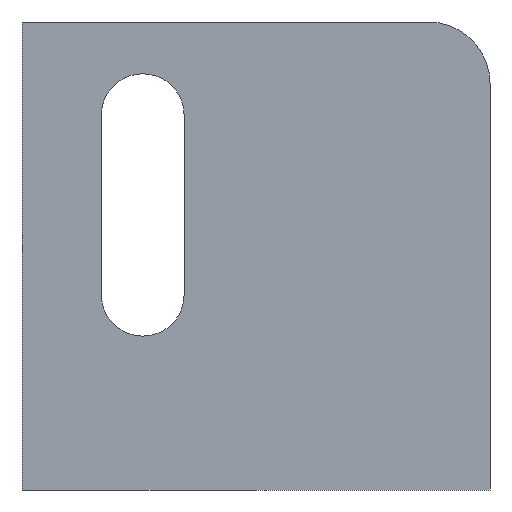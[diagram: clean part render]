
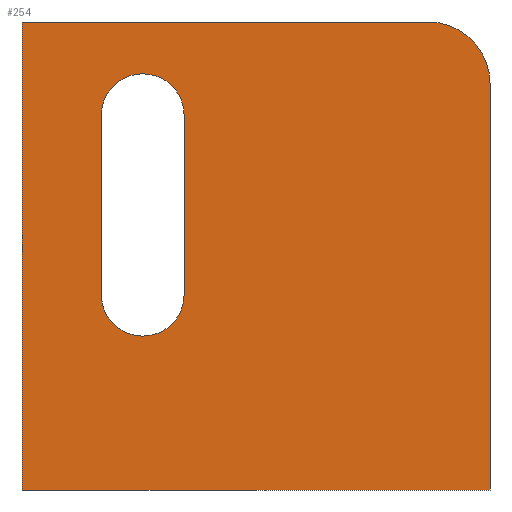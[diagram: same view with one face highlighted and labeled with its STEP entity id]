
A CAD part, left-side view. The second image highlights one B-rep face of the part: STEP entity #254.
In plain terms, the highlighted planar face has unit normal (-1, 0, 0).
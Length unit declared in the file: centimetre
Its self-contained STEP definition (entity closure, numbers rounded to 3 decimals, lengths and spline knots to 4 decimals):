
#1 = AXIS2_PLACEMENT_3D ( 'NONE', #87, #263, #259 ) ;
#10 = DIRECTION ( 'NONE',  ( 1., 0., 0. ) ) ;
#13 = DIRECTION ( 'NONE',  ( 0., 0., 1. ) ) ;
#20 = ORIENTED_EDGE ( 'NONE', *, *, #672, .T. ) ;
#24 = CARTESIAN_POINT ( 'NONE',  ( 0., 741.9384, 800.9824 ) ) ;
#30 = CARTESIAN_POINT ( 'NONE',  ( 0., 653.5137, 800.9824 ) ) ;
#54 = EDGE_LOOP ( 'NONE', ( #576, #20, #105, #650, #416 ) ) ;
#69 = AXIS2_PLACEMENT_3D ( 'NONE', #392, #109, #281 ) ;
#75 = VERTEX_POINT ( 'NONE', #30 ) ;
#87 = CARTESIAN_POINT ( 'NONE',  ( 0., 131.6673, 868.3327 ) ) ;
#92 = CARTESIAN_POINT ( 'NONE',  ( 0., 1000., 1000. ) ) ;
#105 = ORIENTED_EDGE ( 'NONE', *, *, #716, .T. ) ;
#109 = DIRECTION ( 'NONE',  ( 1., 0., 0. ) ) ;
#115 = CIRCLE ( 'NONE', #69, 88.4247 ) ;
#116 = CARTESIAN_POINT ( 'NONE',  ( 0., 830.3631, 417.1034 ) ) ;
#121 = CARTESIAN_POINT ( 'NONE',  ( 0., 653.5137, 417.1034 ) ) ;
#122 = CARTESIAN_POINT ( 'NONE',  ( 0., 1000., 1000. ) ) ;
#150 = EDGE_CURVE ( 'NONE', #168, #75, #745, .T. ) ;
#151 = CARTESIAN_POINT ( 'NONE',  ( 0., 741.9384, 328.6787 ) ) ;
#164 = EDGE_CURVE ( 'NONE', #75, #465, #231, .T. ) ;
#168 = VERTEX_POINT ( 'NONE', #297 ) ;
#188 = DIRECTION ( 'NONE',  ( 0., 0., -1. ) ) ;
#196 = CARTESIAN_POINT ( 'NONE',  ( 0., 1000., 1000. ) ) ;
#216 = ORIENTED_EDGE ( 'NONE', *, *, #432, .T. ) ;
#231 = LINE ( 'NONE', #121, #609 ) ;
#234 = VERTEX_POINT ( 'NONE', #712 ) ;
#240 = DIRECTION ( 'NONE',  ( 0., -1., 0. ) ) ;
#254 = ADVANCED_FACE ( 'NONE', ( #290, #772 ), #358, .F. ) ;
#259 = DIRECTION ( 'NONE',  ( 0., 0., -1. ) ) ;
#263 = DIRECTION ( 'NONE',  ( -1., 0., 0. ) ) ;
#269 = DIRECTION ( 'NONE',  ( 1., 0., 0. ) ) ;
#278 = ORIENTED_EDGE ( 'NONE', *, *, #635, .T. ) ;
#279 = ORIENTED_EDGE ( 'NONE', *, *, #409, .F. ) ;
#281 = DIRECTION ( 'NONE',  ( 0., 0., 1. ) ) ;
#284 = AXIS2_PLACEMENT_3D ( 'NONE', #405, #641, #530 ) ;
#285 = CARTESIAN_POINT ( 'NONE',  ( 0., 0., 868.3327 ) ) ;
#290 = FACE_BOUND ( 'NONE', #54, .T. ) ;
#297 = CARTESIAN_POINT ( 'NONE',  ( 0., 830.3631, 800.9824 ) ) ;
#327 = DIRECTION ( 'NONE',  ( 0., 0., -1. ) ) ;
#349 = VECTOR ( 'NONE', #470, 100. ) ;
#358 = PLANE ( 'NONE',  #461 ) ;
#376 = LINE ( 'NONE', #615, #510 ) ;
#378 = LINE ( 'NONE', #382, #728 ) ;
#382 = CARTESIAN_POINT ( 'NONE',  ( 0., 1000., 0. ) ) ;
#391 = CARTESIAN_POINT ( 'NONE',  ( 0., 653.5137, 417.1034 ) ) ;
#392 = CARTESIAN_POINT ( 'NONE',  ( 0., 741.9384, 417.1034 ) ) ;
#405 = CARTESIAN_POINT ( 'NONE',  ( 0., 741.9384, 417.1034 ) ) ;
#409 = EDGE_CURVE ( 'NONE', #732, #234, #376, .T. ) ;
#413 = VECTOR ( 'NONE', #240, 100. ) ;
#416 = ORIENTED_EDGE ( 'NONE', *, *, #150, .T. ) ;
#419 = EDGE_CURVE ( 'NONE', #643, #168, #748, .T. ) ;
#432 = EDGE_CURVE ( 'NONE', #732, #439, #720, .T. ) ;
#439 = VERTEX_POINT ( 'NONE', #501 ) ;
#452 = CIRCLE ( 'NONE', #284, 88.4247 ) ;
#457 = EDGE_CURVE ( 'NONE', #519, #234, #378, .T. ) ;
#461 = AXIS2_PLACEMENT_3D ( 'NONE', #196, #10, #188 ) ;
#465 = VERTEX_POINT ( 'NONE', #391 ) ;
#470 = DIRECTION ( 'NONE',  ( 0., 0., -1. ) ) ;
#474 = AXIS2_PLACEMENT_3D ( 'NONE', #24, #269, #687 ) ;
#501 = CARTESIAN_POINT ( 'NONE',  ( 0., 131.6673, 1000. ) ) ;
#510 = VECTOR ( 'NONE', #327, 100. ) ;
#519 = VERTEX_POINT ( 'NONE', #538 ) ;
#527 = EDGE_CURVE ( 'NONE', #740, #439, #662, .T. ) ;
#530 = DIRECTION ( 'NONE',  ( 0., 0., 1. ) ) ;
#531 = DIRECTION ( 'NONE',  ( 0., 0., -1. ) ) ;
#538 = CARTESIAN_POINT ( 'NONE',  ( 0., 1000., 0. ) ) ;
#558 = CARTESIAN_POINT ( 'NONE',  ( 0., 830.3631, 800.9824 ) ) ;
#570 = DIRECTION ( 'NONE',  ( 0., -1., 0. ) ) ;
#576 = ORIENTED_EDGE ( 'NONE', *, *, #164, .T. ) ;
#609 = VECTOR ( 'NONE', #531, 100. ) ;
#615 = CARTESIAN_POINT ( 'NONE',  ( 0., 0., 1000. ) ) ;
#635 = EDGE_CURVE ( 'NONE', #740, #519, #763, .T. ) ;
#639 = EDGE_LOOP ( 'NONE', ( #279, #216, #762, #278, #783 ) ) ;
#641 = DIRECTION ( 'NONE',  ( 1., 0., 0. ) ) ;
#643 = VERTEX_POINT ( 'NONE', #116 ) ;
#650 = ORIENTED_EDGE ( 'NONE', *, *, #419, .T. ) ;
#651 = VECTOR ( 'NONE', #13, 100. ) ;
#652 = CARTESIAN_POINT ( 'NONE',  ( 0., 1000., 1000. ) ) ;
#662 = LINE ( 'NONE', #122, #413 ) ;
#672 = EDGE_CURVE ( 'NONE', #465, #675, #452, .T. ) ;
#675 = VERTEX_POINT ( 'NONE', #151 ) ;
#687 = DIRECTION ( 'NONE',  ( 0., 0., 1. ) ) ;
#712 = CARTESIAN_POINT ( 'NONE',  ( 0., 0., 0. ) ) ;
#716 = EDGE_CURVE ( 'NONE', #675, #643, #115, .T. ) ;
#720 = CIRCLE ( 'NONE', #1, 131.6673 ) ;
#728 = VECTOR ( 'NONE', #570, 100. ) ;
#732 = VERTEX_POINT ( 'NONE', #285 ) ;
#740 = VERTEX_POINT ( 'NONE', #92 ) ;
#745 = CIRCLE ( 'NONE', #474, 88.4247 ) ;
#748 = LINE ( 'NONE', #558, #651 ) ;
#762 = ORIENTED_EDGE ( 'NONE', *, *, #527, .F. ) ;
#763 = LINE ( 'NONE', #652, #349 ) ;
#772 = FACE_OUTER_BOUND ( 'NONE', #639, .T. ) ;
#783 = ORIENTED_EDGE ( 'NONE', *, *, #457, .T. ) ;
